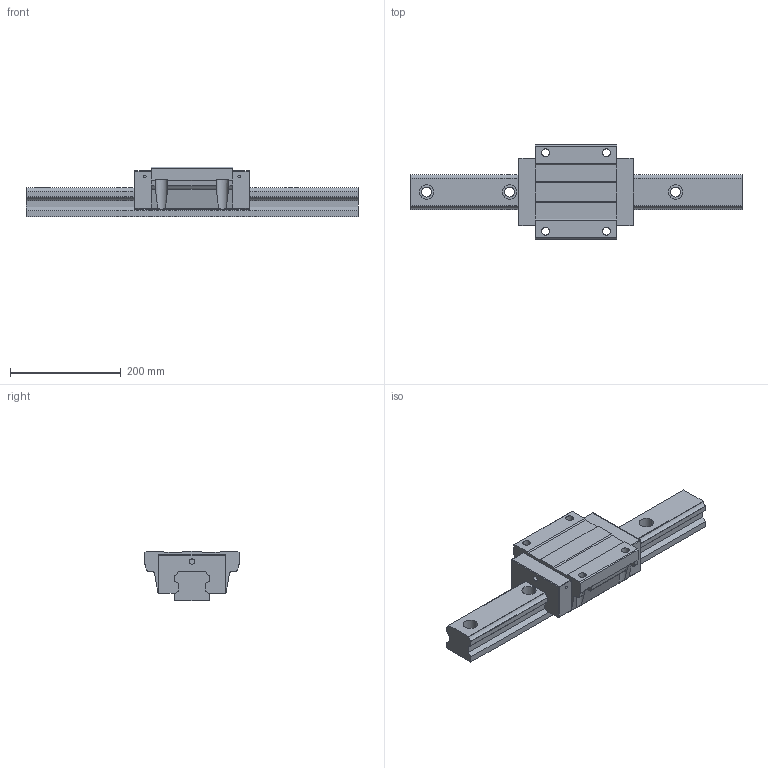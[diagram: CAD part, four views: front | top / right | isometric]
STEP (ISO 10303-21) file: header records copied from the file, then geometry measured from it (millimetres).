
FILE_DESCRIPTION (( 'STEP AP203' ), '1' );
FILE_NAME ('TRH65FL-ZN.STEP', '2024-05-15T05:27:21', ( '' ), ( '' ), 'SwSTEP 2.0', 'SolidWorks 2022', '' );
FILE_SCHEMA (( 'CONFIG_CONTROL_DESIGN' ));
Length unit declared in the file: millimetre
Products named in the file (1): TRH65FL-ZN
Bounding box: 600 x 170 x 90 mm (x, y, z)
Volume: 3264385 mm3; surface area: 299714.6 mm2
Topology: 2 solids, 2 shells, 222 faces, 616 edges, 404 vertices
Faces by surface type: plane 120, cylinder 98, sphere 4
Entity records: 7342 total; most frequent: CARTESIAN_POINT 1460, ORIENTED_EDGE 1224, DIRECTION 1220, EDGE_CURVE 612, AXIS2_PLACEMENT_3D 415, VERTEX_POINT 404, VECTOR 390, LINE 390
